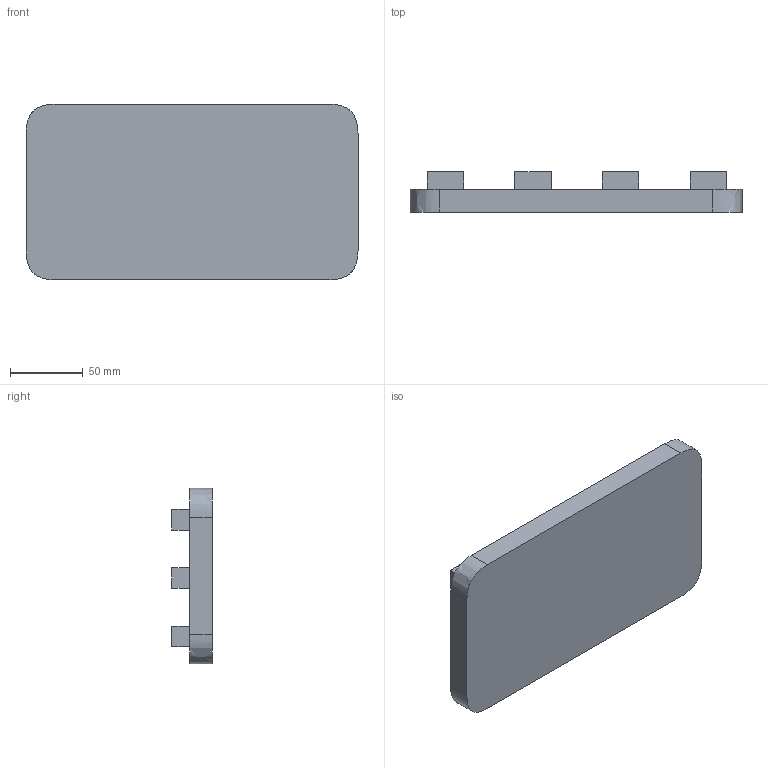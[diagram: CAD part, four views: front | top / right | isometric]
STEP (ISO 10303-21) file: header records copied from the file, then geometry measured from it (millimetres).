
FILE_DESCRIPTION (( 'STEP AP214' ), '1' );
FILE_NAME ('Figure 6-79 and 7-81.STEP', '2016-01-06T06:24:08', ( '' ), ( '' ), 'SwSTEP 2.0', 'SolidWorks 2015', '' );
FILE_SCHEMA (( 'AUTOMOTIVE_DESIGN' ));
Length unit declared in the file: millimetre
Products named in the file (1): Figure 6-79 and 7-81
Bounding box: 227.41 x 27.82 x 120.52 mm (x, y, z)
Volume: 475668.7 mm3; surface area: 76142.2 mm2
Topology: 1 solids, 1 shells, 70 faces, 168 edges, 112 vertices
Faces by surface type: plane 66, bspline 4
Entity records: 2074 total; most frequent: CARTESIAN_POINT 443, ORIENTED_EDGE 336, DIRECTION 286, EDGE_CURVE 168, LINE 152, VECTOR 152, VERTEX_POINT 112, EDGE_LOOP 82
